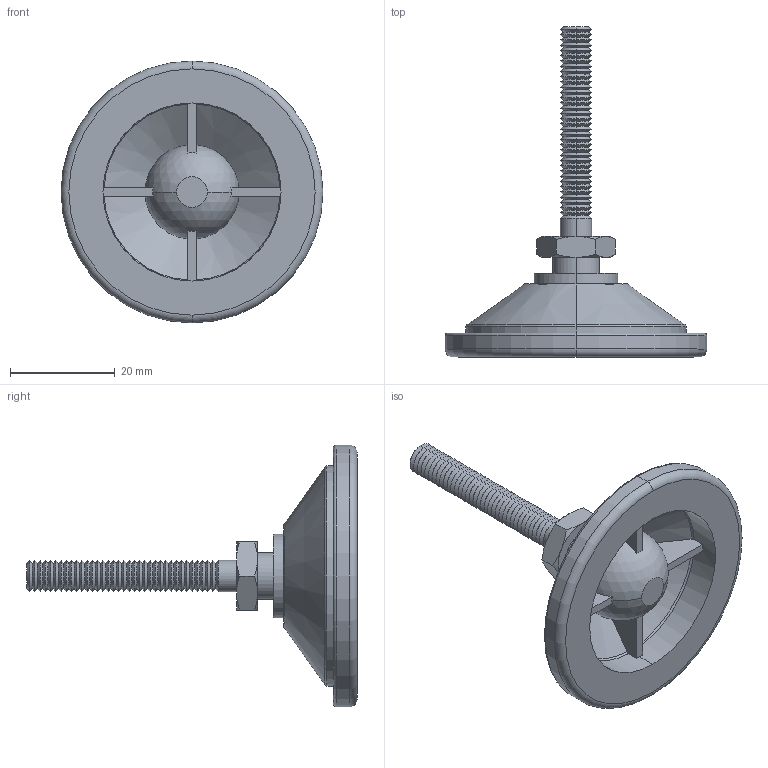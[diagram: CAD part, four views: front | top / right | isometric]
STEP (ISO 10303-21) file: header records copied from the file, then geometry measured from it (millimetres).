
FILE_DESCRIPTION (( 'STEP AP203' ), '1' );
FILE_NAME ('34741.W0063.step', '2016-09-22T07:37:36', ( 'User' ), ( '' ), 'SwSTEP 2.0', 'SolidWorks 2009', '' );
FILE_SCHEMA (( 'CONFIG_CONTROL_DESIGN' ));
Length unit declared in the file: millimetre
Products named in the file (3): Part1_34741.W0063; Part2_34741.W0063; 34741.W0063
Assembly tree (2 placements, depth 2):
  34741.W0063
    Part1_34741.W0063
    Part2_34741.W0063
Bounding box: 50 x 63 x 50 mm (x, y, z)
Volume: 12968.1 mm3; surface area: 9121 mm2
Topology: 2 solids, 2 shells, 224 faces, 484 edges, 266 vertices
Faces by surface type: cone 166, plane 26, cylinder 14, torus 12, sphere 6
Entity records: 6337 total; most frequent: CARTESIAN_POINT 1165, DIRECTION 1142, ORIENTED_EDGE 950, AXIS2_PLACEMENT_3D 478, EDGE_CURVE 475, VERTEX_POINT 261, CIRCLE 249, EDGE_LOOP 230
